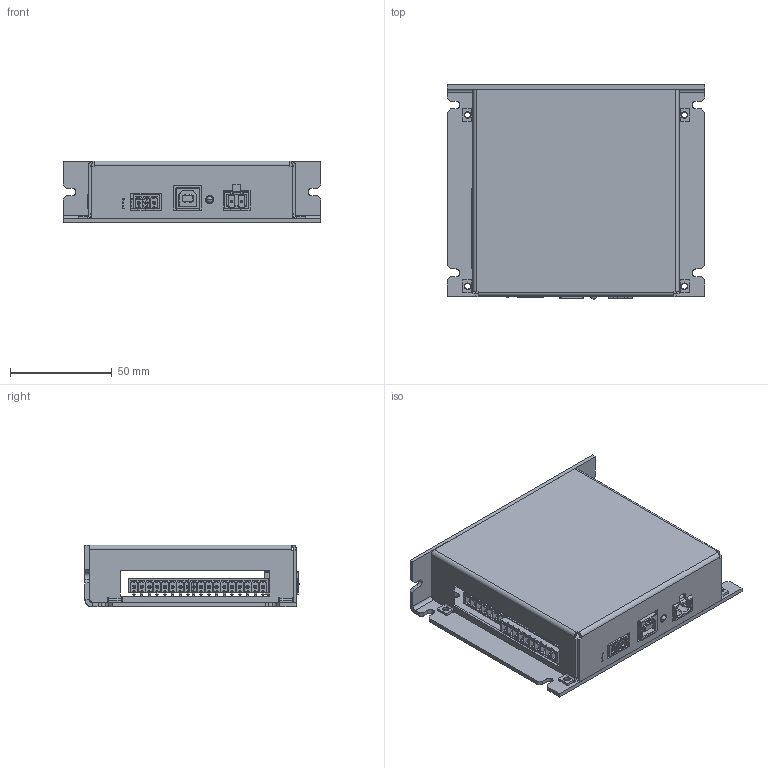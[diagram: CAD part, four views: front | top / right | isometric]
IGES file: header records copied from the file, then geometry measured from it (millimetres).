
Start section: SolidWorks IGES file using analytic representation for surfaces
Global section: file name: C:\Users\Engineering\Documents\Drawing\CAD\Arcus Enclosure\PMX-Assembly\PMX-2EX\PMX-2EX-SA-external.IGS; native system: SolidWorks 2011; preprocessor: SolidWorks 2011; author: Engineering; date: 110801.100410; units: inch
Bounding box: 127 x 105.41 x 30.48 mm (x, y, z)
Surface area: 84986 mm2 (no closed solid volume)
Topology: 0 solids, 0 shells, 3585 faces, 25058 edges, 24979 vertices
Faces by surface type: bspline 2931, revolution 654
